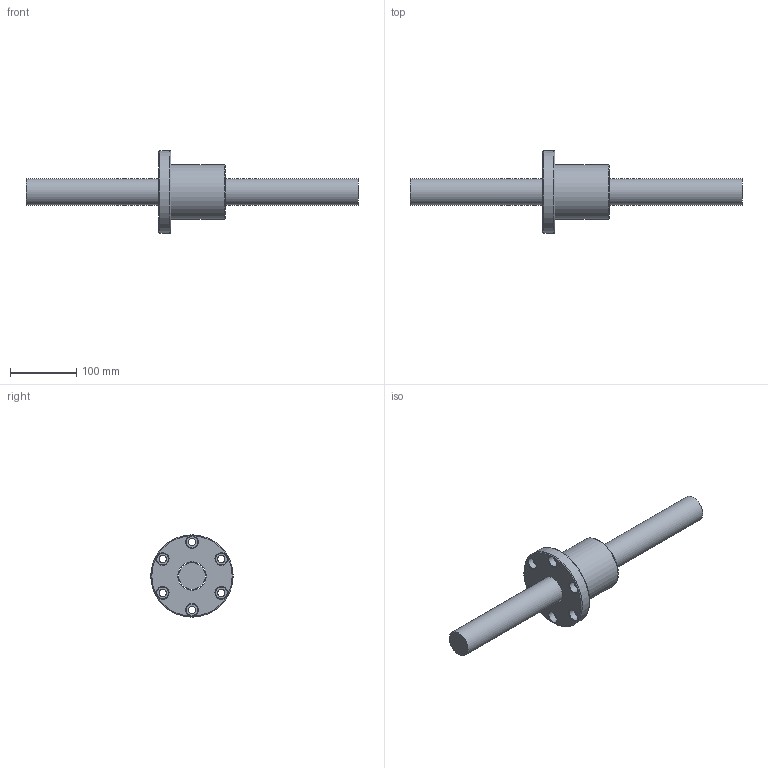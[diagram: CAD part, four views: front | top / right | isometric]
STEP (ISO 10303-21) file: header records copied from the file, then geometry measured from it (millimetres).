
FILE_DESCRIPTION (( 'STEP AP203' ), '1' );
FILE_NAME ('SFV04020N-2.7.step', '2024-05-20T03:39:49', ( '' ), ( '' ), 'SwSTEP 2.0', 'SolidWorks 2022', '' );
FILE_SCHEMA (( 'CONFIG_CONTROL_DESIGN' ));
Length unit declared in the file: millimetre
Products named in the file (1): SFV04020N-2.7
Bounding box: 500 x 124 x 124 mm (x, y, z)
Volume: 1113759.1 mm3; surface area: 131878 mm2
Topology: 2 solids, 2 shells, 55 faces, 139 edges, 89 vertices
Faces by surface type: cylinder 23, cone 13, plane 12, bspline 4, torus 3
Full cylindrical faces by diameter (mm): 4 x1, 7 x5, 11 x6, 17.5 x6, 40 x1, 42.8 x1, 82 x1, 124 x1
Entity records: 3003 total; most frequent: CARTESIAN_POINT 1952, DIRECTION 206, ORIENTED_EDGE 148, EDGE_LOOP 102, AXIS2_PLACEMENT_3D 101, EDGE_CURVE 74, FACE_OUTER_BOUND 72, VERTEX_POINT 64
